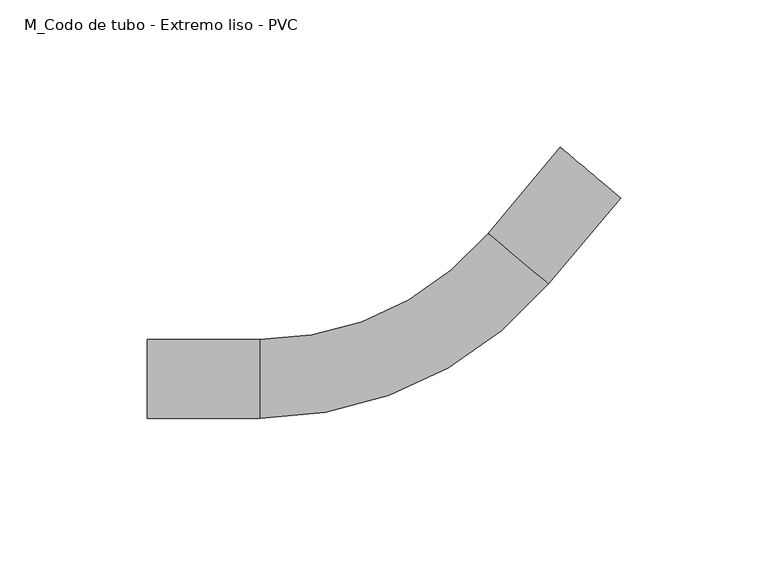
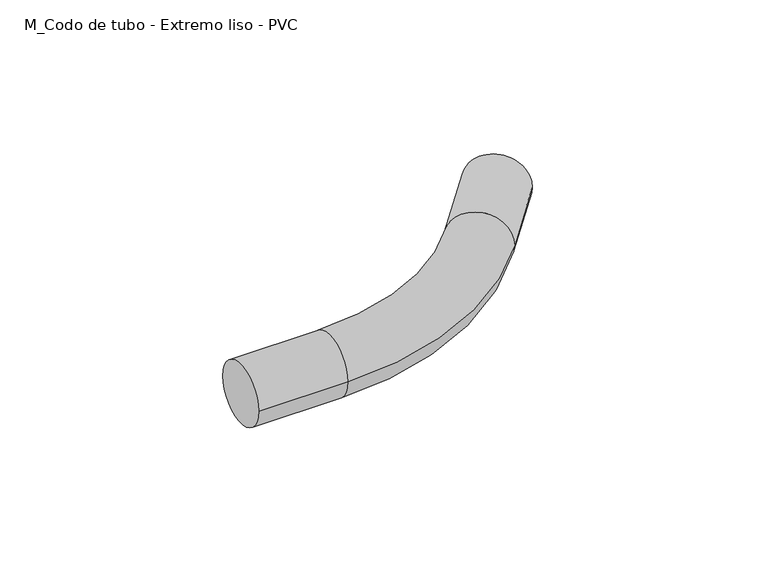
"""IFC4 building model written with IfcOpenShell, lengths in millimetres: cable carrier fitting geometry, M_Codo de tubo - Extremo liso - PVC : CODO ILUMINACION."""

import ifcopenshell
import ifcopenshell.guid

model = None  # the IFC model being written
_history = None  # IfcOwnerHistory: only IFC2X3 demands one
_inside = {}  # id of a spatial element -> (the spatial element, [elements in it])
_under = {}  # id of a project, library or spatial element -> (it, [spatial elements below it])
_declared = {}  # id of a project -> (the project, [libraries it declares])
_typed = {}  # id of a type object -> (the type object, [elements of that type])
_made_of = {}  # id of a material, layer set ... -> (it, [elements and type objects made of it])


def new_model(schema):
    """Start an empty IFC model of exactly this schema.

    Asked for "IFC4X3", IfcOpenShell would pick the latest addendum, in which some entities
    have other attributes; the version numbers below select the first issue.
    IFC2X3 requires an IfcOwnerHistory on every rooted entity: one is made here for all.
    """
    global model, _history
    if schema == "IFC4X3":
        model = ifcopenshell.file(schema_version=(4, 3, 0, 0))
    else:
        model = ifcopenshell.file(schema=schema)
    _inside.clear()
    _under.clear()
    _declared.clear()
    _typed.clear()
    _made_of.clear()
    _history = None
    if model.schema == "IFC2X3":
        org = make("IfcOrganization", Name="unknown")
        user = make(
            "IfcPersonAndOrganization",
            ThePerson=make("IfcPerson", FamilyName="unknown"),
            TheOrganization=org,
        )
        app = make(
            "IfcApplication",
            ApplicationDeveloper=org,
            Version="unknown",
            ApplicationFullName="unknown",
            ApplicationIdentifier="unknown",
        )
        _history = make(
            "IfcOwnerHistory",
            OwningUser=user,
            OwningApplication=app,
            ChangeAction="ADDED",
            CreationDate=0,
        )
    return model


def make(cls, **values):
    """One entity of the class cls with the attributes given. An attribute that is None is left unset."""
    return model.create_entity(
        cls, **{name: value for name, value in values.items() if value is not None}
    )


def rooted(cls, **values):
    """An entity with a GlobalId (a new one), such as an element, a storey or a relation."""
    return make(cls, GlobalId=ifcopenshell.guid.new(), OwnerHistory=_history, **values)


def si_unit(unit_type, name, prefix=None):
    """IfcSIUnit, for example si_unit("LENGTHUNIT", "METRE", prefix="MILLI")."""
    return make("IfcSIUnit", UnitType=unit_type, Prefix=prefix, Name=name)


def assignment(units):
    """IfcUnitAssignment: the units of a project."""
    return None if units is None else make("IfcUnitAssignment", Units=units)


def point(xyz):
    """IfcCartesianPoint."""
    return None if xyz is None else make("IfcCartesianPoint", Coordinates=xyz)


def direction(xyz):
    """IfcDirection."""
    return None if xyz is None else make("IfcDirection", DirectionRatios=xyz)


def frame(location, z_axis=None, x_axis=None):
    """IfcAxis2Placement3D, a coordinate frame: its origin and axes. An axis left out is left unset."""
    return make(
        "IfcAxis2Placement3D",
        Location=point(location),
        Axis=direction(z_axis),
        RefDirection=direction(x_axis),
    )


def origin():
    """The frame at (0, 0, 0) with its axes left unset."""
    return frame((0.0, 0.0, 0.0))


def place(relative_to, where):
    """IfcLocalPlacement: puts the frame where relative to a parent placement (None: the world)."""
    return make(
        "IfcLocalPlacement", PlacementRelTo=relative_to, RelativePlacement=where
    )


def context(
    kind, dimensions, precision=None, world=None, true_north=None, identifier=None
):
    """IfcGeometricRepresentationContext, for example the 3D "Model" context."""
    return make(
        "IfcGeometricRepresentationContext",
        ContextIdentifier=identifier,
        ContextType=kind,
        CoordinateSpaceDimension=dimensions,
        Precision=precision,
        WorldCoordinateSystem=world,
        TrueNorth=true_north,
    )


def project(units=None, contexts=None):
    """IfcProject with its units and contexts."""
    return rooted(
        "IfcProject",
        Name="project",
        RepresentationContexts=contexts,
        UnitsInContext=assignment(units),
    )


def spatial(cls, under=None, at=None, **own):
    """A site, building, storey or space (cls), placed at a placement, below another one or the project."""
    s = rooted(cls, ObjectPlacement=at, **own)
    if under is not None:
        _under.setdefault(under.id(), (under, []))[1].append(s)
    return s


def circle_curve(where, radius):
    """IfcCircle in the frame where."""
    return make("IfcCircle", Position=where, Radius=radius)


def ellipse_curve(where, semi_axis1, semi_axis2):
    """IfcEllipse in the frame where."""
    return make(
        "IfcEllipse", Position=where, SemiAxis1=semi_axis1, SemiAxis2=semi_axis2
    )


def trimmed(basis, trim1, trim2, sense, master):
    """IfcTrimmedCurve: the piece of a basis curve between two trims."""
    return make(
        "IfcTrimmedCurve",
        BasisCurve=basis,
        Trim1=trim1,
        Trim2=trim2,
        SenseAgreement=sense,
        MasterRepresentation=master,
    )


def shape(context_of_items, identifier, shape_type, items):
    """IfcShapeRepresentation: the items that make up one representation, for example the "Body"."""
    return make(
        "IfcShapeRepresentation",
        ContextOfItems=context_of_items,
        RepresentationIdentifier=identifier,
        RepresentationType=shape_type,
        Items=items,
    )


def source(mapping_origin, context_of_items, identifier, shape_type, items):
    """IfcRepresentationMap: a shape defined once, which mapped items show again and again."""
    return make(
        "IfcRepresentationMap",
        MappingOrigin=mapping_origin,
        MappedRepresentation=shape(context_of_items, identifier, shape_type, items),
    )


def transform(
    local_origin,
    x_axis=None,
    y_axis=None,
    z_axis=None,
    scale=None,
    scale2=None,
    scale3=None,
    uniform=True,
):
    """IfcCartesianTransformationOperator3D, or its non-uniform kind. x_axis, y_axis, z_axis: its Axis1, 2, 3."""
    if uniform:
        return make(
            "IfcCartesianTransformationOperator3D",
            Axis1=direction(x_axis),
            Axis2=direction(y_axis),
            LocalOrigin=point(local_origin),
            Scale=scale,
            Axis3=direction(z_axis),
        )
    return make(
        "IfcCartesianTransformationOperator3DnonUniform",
        Axis1=direction(x_axis),
        Axis2=direction(y_axis),
        LocalOrigin=point(local_origin),
        Scale=scale,
        Axis3=direction(z_axis),
        Scale2=scale2,
        Scale3=scale3,
    )


def mapped(mapping_source, mapping_target):
    """IfcMappedItem: shows the shape of a source again, moved by a transform."""
    return make(
        "IfcMappedItem", MappingSource=mapping_source, MappingTarget=mapping_target
    )


def made_of(thing, what):
    """Note that an element or type object is made of a material, layer set ...; save() writes the relation."""
    if what is not None:
        _made_of.setdefault(what.id(), (what, []))[1].append(thing)
    return thing


def element(
    cls,
    number,
    at=None,
    inside=None,
    cuts=None,
    type_object=None,
    material=None,
    context=None,
    identifier="Body",
    shape_type=None,
    held_by="IfcProductDefinitionShape",
    body=None,
    shapes=None,
    **own,
):
    """One element of the class cls, such as IfcWall. Its Tag is "e" and its number.

    at: its placement. inside: the storey or other place that contains it. cuts: it is an
    opening in that element (IfcRelVoidsElement). A single representation is given by context,
    identifier, shape_type and body (its items); several are given by shapes. held_by: the class
    of the entity that holds the representations. save() writes the other relations.
    """
    e = rooted(cls, Tag="e%d" % number, ObjectPlacement=at, **own)
    if body is not None:
        shapes = [shape(context, identifier, shape_type, body)]
    if shapes is not None:
        e.Representation = make(held_by, Representations=shapes)
    if inside is not None:
        _inside.setdefault(inside.id(), (inside, []))[1].append(e)
    if cuts is not None:
        rooted(
            "IfcRelVoidsElement", RelatingBuildingElement=cuts, RelatedOpeningElement=e
        )
    if type_object is not None:
        _typed.setdefault(type_object.id(), (type_object, []))[1].append(e)
    return made_of(e, material)


def aggregate(whole, parts):
    """IfcRelAggregates: a whole, such as a stair, and the parts it consists of."""
    return rooted("IfcRelAggregates", RelatingObject=whole, RelatedObjects=parts)


def save(model, path):
    """Write the relations noted so far, then the file.

    IfcRelAggregates (storeys below a building ...), IfcRelContainedInSpatialStructure (elements
    in a storey), IfcRelDefinesByType, IfcRelAssociatesMaterial and IfcRelDeclares: one each for
    every whole, place, type object, material and project.
    """
    for whole, parts in _under.values():
        aggregate(whole, parts)
    for where, things in _inside.values():
        rooted(
            "IfcRelContainedInSpatialStructure",
            RelatedElements=things,
            RelatingStructure=where,
        )
    for kind, things in _typed.values():
        rooted("IfcRelDefinesByType", RelatedObjects=things, RelatingType=kind)
    for what, things in _made_of.values():
        rooted("IfcRelAssociatesMaterial", RelatedObjects=things, RelatingMaterial=what)
    for by, libraries in _declared.values():
        rooted("IfcRelDeclares", RelatingContext=by, RelatedDefinitions=libraries)
    model.write(path)


def plane_surface(at):
    """IfcPlane: the flat surface through the origin of the frame at, square to its z axis."""
    return make("IfcPlane", Position=at)


def cylinder_surface(at, radius):
    """IfcCylindricalSurface: all points at the distance radius from the z axis of the frame at."""
    return make("IfcCylindricalSurface", Position=at, Radius=radius)


def revolved_surface(curve, axis_point, axis_direction):
    """IfcSurfaceOfRevolution: the curve turned about the line through axis_point along axis_direction."""
    return make(
        "IfcSurfaceOfRevolution",
        SweptCurve=make("IfcArbitraryOpenProfileDef", ProfileType="CURVE", Curve=curve),
        AxisPosition=make("IfcAxis1Placement", Location=point(axis_point), Axis=direction(axis_direction)),
    )


def advanced_brep(points, edges, surfaces, faces):
    """IfcAdvancedBrep: a solid bounded by faces that lie on surfaces and meet in shared edges.

    An edge is (start, end): straight between two places in points (the first is 0);
    or (start, end, curve); or (start, end, curve, False) where it runs against its curve.
    A face is (place in surfaces, loops), or (place, loops, False) where it looks against
    its surface's normal. A loop lists edges by number (the first is 1), with a minus sign
    where the edge is run from its end to its start. The first loop is the outer one.
    """
    corners = [point(p) for p in points]
    vertices = [make("IfcVertexPoint", VertexGeometry=c) for c in corners]
    made = []
    for start, end, *more in edges:
        made.append(
            make(
                "IfcEdgeCurve",
                EdgeStart=vertices[start],
                EdgeEnd=vertices[end],
                EdgeGeometry=more[0] if more else make("IfcPolyline", Points=[corners[start], corners[end]]),
                SameSense=more[1] if len(more) > 1 else True,
            )
        )
    hull = []
    for where, loops, *sense in faces:
        bounds = []
        for j, loop in enumerate(loops):
            ring = [make("IfcOrientedEdge", EdgeElement=made[abs(k) - 1], Orientation=k > 0) for k in loop]
            bounds.append(
                make(
                    "IfcFaceOuterBound" if j == 0 else "IfcFaceBound",
                    Bound=make("IfcEdgeLoop", EdgeList=ring),
                    Orientation=True,
                )
            )
        hull.append(make("IfcAdvancedFace", Bounds=bounds, FaceSurface=surfaces[where], SameSense=sense[0] if sense else True))
    return make("IfcAdvancedBrep", Outer=make("IfcClosedShell", CfsFaces=hull))


def m_codo_de_tubo_extremo_liso_pvc_5925479e(model_context):
    return source(origin(), model_context, "Body", "AdvancedBrep", [
        advanced_brep(
        [(-91.3989653, -13.335, 0.0), (-91.3989653, 13.335, 0.0), (-53.2989653, -13.335, 0.0), (-53.2989653, 13.335, 0.0), (24.0447119, 49.400949, 0.0), (44.4751172, 32.2578034, 0.0), (68.9653251, 61.4440967, 0.0), (48.5349198, 78.5872423, 0.0)],
        [
            (0, 1, circle_curve(frame((-91.3989653, 0.0, 0.0), z_axis=(-1.0, 0.0, 0.0), x_axis=(0.0, 1.0, 0.0)), 13.335)),
            (1, 0, circle_curve(frame((-91.3989653, 0.0, 0.0), z_axis=(-1.0, 0.0, 0.0), x_axis=(0.0, 1.0, 0.0)), 13.335)),
            (0, 2),
            (2, 3, circle_curve(frame((-53.2989653, 0.0, 0.0), z_axis=(-1.0, 0.0, 0.0), x_axis=(0.0, 1.0, 0.0)), 13.335)),
            (3, 1),
            (3, 2, circle_curve(frame((-53.2989653, 0.0, 0.0), z_axis=(-1.0, 0.0, 0.0), x_axis=(0.0, 1.0, 0.0)), 13.335)),
            (4, 3, circle_curve(frame((-53.2989653, 114.3, 0.0), z_axis=(0.0, 0.0, -1.0), x_axis=(0.0, -1.0, 0.0)), 100.965)),
            (2, 5, circle_curve(frame((-53.2989653, 114.3, 0.0), z_axis=(0.0, 0.0, 1.0), x_axis=(0.0, -1.0, 0.0)), 127.635)),
            (5, 4, circle_curve(frame((34.2599145, 40.8293762, 0.0), z_axis=(-0.6427876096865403, -0.7660444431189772, 0.0), x_axis=(-0.7660444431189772, 0.6427876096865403, 0.0)), 13.335)),
            (4, 5, circle_curve(frame((34.2599145, 40.8293762, 0.0), z_axis=(-0.6427876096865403, -0.7660444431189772, 0.0), x_axis=(-0.7660444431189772, 0.6427876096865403, 0.0)), 13.335)),
            (6, 7, circle_curve(frame((58.7501225, 70.0156695, 0.0), z_axis=(0.6427876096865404, 0.7660444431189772, 0.0), x_axis=(-0.7660444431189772, 0.6427876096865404, 0.0)), 13.335)),
            (7, 6, circle_curve(frame((58.7501225, 70.0156695, 0.0), z_axis=(0.6427876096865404, 0.7660444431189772, 0.0), x_axis=(-0.7660444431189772, 0.6427876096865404, 0.0)), 13.335)),
            (5, 6),
            (7, 4),
        ],
        [
            plane_surface(frame((-91.3989653, 0.0, 0.0), z_axis=(-1.0, 0.0, 0.0), x_axis=(0.0, 0.0, 1.0))),
            cylinder_surface(frame((-91.3989653, 0.0, 0.0), z_axis=(-1.0, 0.0, 0.0), x_axis=(0.0, 1.0, 0.0)), 13.335),
            revolved_surface(trimmed(ellipse_curve(frame((-53.2989653, 0.0, 0.0), z_axis=(-1.0, 0.0, 0.0), x_axis=(0.0, 1.0, 0.0)), 13.335, 13.335), [point((-53.2989653, -13.335, 0.0))], [point((-53.2989653, 13.335, 0.0))], True, "CARTESIAN"), (-53.2989653, 114.3, 0.0), (0.0, 0.0, 1.0)),
            revolved_surface(trimmed(ellipse_curve(frame((-53.2989653, 0.0, 0.0), z_axis=(-1.0, 0.0, 0.0), x_axis=(0.0, 1.0, 0.0)), 13.335, 13.335), [point((-53.2989653, 13.335, 0.0))], [point((-53.2989653, -13.335, 0.0))], True, "CARTESIAN"), (-53.2989653, 114.3, 0.0), (0.0, 0.0, 1.0)),
            plane_surface(frame((58.7501225, 70.0156695, 0.0), z_axis=(0.6427876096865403, 0.7660444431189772, 0.0), x_axis=(0.0, 0.0, 1.0))),
            cylinder_surface(frame((34.2599145, 40.8293762, 0.0), z_axis=(-0.6427876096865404, -0.7660444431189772, 0.0), x_axis=(-0.7660444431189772, 0.6427876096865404, 0.0)), 13.335),
        ],
        [
            (0, [[1, 2]]),
            (1, [[-1, 3, 4, 5]]),
            (1, [[-2, -5, 6, -3]]),
            (2, [[7, -4, 8, 9]]),
            (3, [[-8, -6, -7, 10]]),
            (4, [[11, 12]]),
            (5, [[-9, 13, -12, 14]]),
            (5, [[-10, -14, -11, -13]]),
        ],
    ),
    ])


if __name__ == "__main__":
    model = new_model("IFC4")
    model_context = context("Model", 3, world=origin())
    ifc_project = project(units=[si_unit("LENGTHUNIT", "METRE", prefix="MILLI")], contexts=[model_context])
    site = spatial("IfcSite", under=ifc_project)
    building = spatial("IfcBuilding", under=site)
    placement = place(None, origin())
    m_codo_de_tubo_extremo_liso_pvc_shape = m_codo_de_tubo_extremo_liso_pvc_5925479e(model_context)
    element("IfcCableCarrierFitting", 1, ObjectType="M_Codo de tubo - Extremo liso - PVC : CODO ILUMINACION", at=placement, inside=building, context=model_context, shape_type="MappedRepresentation", body=[
        mapped(m_codo_de_tubo_extremo_liso_pvc_shape, transform((0.0, 0.0, 0.0), x_axis=(1.0, 0.0, 0.0), y_axis=(0.0, 1.0, 0.0), z_axis=(0.0, 0.0, 1.0))),
    ])
    save(model, "model.ifc")
